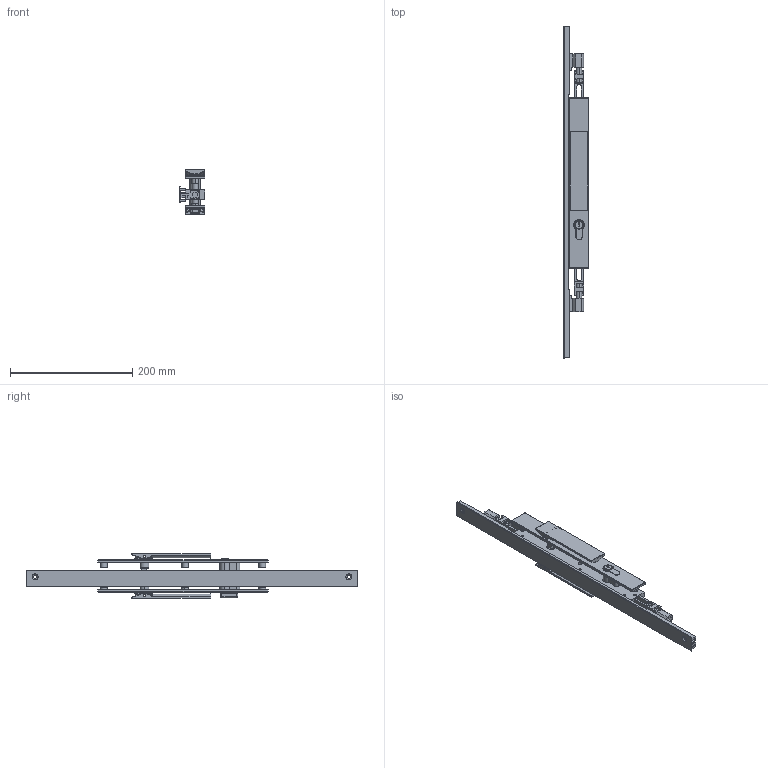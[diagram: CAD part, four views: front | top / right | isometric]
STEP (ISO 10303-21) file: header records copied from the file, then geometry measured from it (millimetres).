
FILE_DESCRIPTION (( 'STEP AP214' ), '1' );
FILE_NAME ('TPL-W-503-L 19July2024.STEP', '2024-12-04T23:57:04', ( '' ), ( '' ), 'SwSTEP 2.0', 'SolidWorks 2023', '' );
FILE_SCHEMA (( 'AUTOMOTIVE_DESIGN' ));
Length unit declared in the file: millimetre
Products named in the file (21): Copy of Copy of LKC-531 Lock twinpoint transmission rod wood system^TPL-W-003 19July2024_Standard Range 2891.7mm; Copy of Adapter DnF - simplfied^TPL-W-003 19July2024_26mm backset; Copy of TPGen2 handle keyed internal - simplified^TPL-W-003 19July2024_Vertical; Copy of TPLGen2 lock body keyed assembly^TPL-W-003 19July2024_Bolts extended; Copy of Copy of Copy of LKC-531 Lock twinpoint transmission rod wood system^TPL-W-003 19July2024_Standard Range 2891.7mm; Copy of Adapter CnE - simplfied^TPL-W-003 19July2024_26mm backset; Copy of Escutcheon plate keyed internal 280mm - simplified^Copy of TPGen2 handle keyed internal - simplified_TPL-W-003 19July2024; Copy of Handle sub-assembly - simplified^Copy of TPGen2 handle keyed internal - simplified_TPL-W-003 19July2024; Copy of LKC-547 Spindle - simplified^Copy of TPGen2 handle keyed external - simplified_TPL-W-003 19July2024_E - 19mm; TPL-W-503-L 19July2024; Copy of COV-112-A Cover A suit TPLGen2 standard range^TPL-W-003 19July2024_2870mm; Copy of TPL-019 Lock cylinder suit 1.75 inch panel^TPL-W-003 19July2024; Copy (2) of COV-112-B Cover B suit TPLGen2 standard range^TPL-W-003 19July2024_2870mm; Copy of Escutcheon plate keyed external 280mm - simplified^Copy of TPGen2 handle keyed external - simplified_TPL-W-003 19July2024; Copy of LKC-547 Spindle - simplified^Copy of TPGen2 handle keyed internal - simplified_TPL-W-003 19July2024_A - 11mm; Copy of TPLGen2 lock body keyed^Copy of TPLGen2 lock body keyed assembly_TPL-W-003 19July2024; Copy of Handle sub-assembly - simplified^Copy of TPGen2 handle keyed external - simplified_TPL-W-003 19July2024; Copy of TPGen2 handle keyed external - simplified^TPL-W-003 19July2024_Vertical; Bolt.step; Copy of COV-112-C Cover C TPLGen2 Lock body^TPL-W-003 19July2024; Copy of TPLGen2 push rod - simplified^Copy of TPLGen2 lock body keyed assembly_TPL-W-003 19July2024_Female thread M10
Assembly tree (18 placements, depth 3):
  TPL-W-503-L 19July2024
    Copy of TPLGen2 lock body keyed assembly^TPL-W-003 19July2024_Bolts extended
      Copy of TPLGen2 lock body keyed^Copy of TPLGen2 lock body keyed assembly_TPL-W-003 19July2024
      Copy of TPLGen2 push rod - simplified^Copy of TPLGen2 lock body keyed assembly_TPL-W-003 19July2024_Female thread M10  x2
    Copy of TPGen2 handle keyed internal - simplified^TPL-W-003 19July2024_Vertical
      Copy of Escutcheon plate keyed internal 280mm - simplified^Copy of TPGen2 handle keyed internal - simplified_TPL-W-003 19July2024
      Copy of Handle sub-assembly - simplified^Copy of TPGen2 handle keyed internal - simplified_TPL-W-003 19July2024
      Copy of LKC-547 Spindle - simplified^Copy of TPGen2 handle keyed internal - simplified_TPL-W-003 19July2024_A - 11mm
    Copy of TPGen2 handle keyed external - simplified^TPL-W-003 19July2024_Vertical
      Copy of Escutcheon plate keyed external 280mm - simplified^Copy of TPGen2 handle keyed external - simplified_TPL-W-003 19July2024
      Copy of Handle sub-assembly - simplified^Copy of TPGen2 handle keyed external - simplified_TPL-W-003 19July2024
      Copy of LKC-547 Spindle - simplified^Copy of TPGen2 handle keyed external - simplified_TPL-W-003 19July2024_E - 19mm
    Copy of TPL-019 Lock cylinder suit 1.75 inch panel^TPL-W-003 19July2024
    Copy of COV-112-C Cover C TPLGen2 Lock body^TPL-W-003 19July2024
    Copy of Copy of LKC-531 Lock twinpoint transmission rod wood system^TPL-W-003 19July2024_Standard Range 2891.7mm
    Copy of Copy of Copy of LKC-531 Lock twinpoint transmission rod wood system^TPL-W-003 19July2024_Standard Range 2891.7mm
    Copy of Adapter CnE - simplfied^TPL-W-003 19July2024_26mm backset
    Copy of Adapter DnF - simplfied^TPL-W-003 19July2024_26mm backset
  Copy of COV-112-A Cover A suit TPLGen2 standard range^TPL-W-003 19July2024_2870mm
  Copy (2) of COV-112-B Cover B suit TPLGen2 standard range^TPL-W-003 19July2024_2870mm
  Bolt.step
Bounding box: 42 x 544 x 73.59 mm (x, y, z)
Volume: 355406.9 mm3; surface area: 175811.2 mm2
Topology: 17 solids, 20 shells, 1089 faces, 2762 edges, 1725 vertices
Faces by surface type: cylinder 451, plane 422, bspline 89, torus 68, cone 35, sphere 24
Entity records: 33361 total; most frequent: CARTESIAN_POINT 7269, DIRECTION 5470, ORIENTED_EDGE 5272, EDGE_CURVE 2636, AXIS2_PLACEMENT_3D 2050, VERTEX_POINT 1665, VECTOR 1370, LINE 1370
